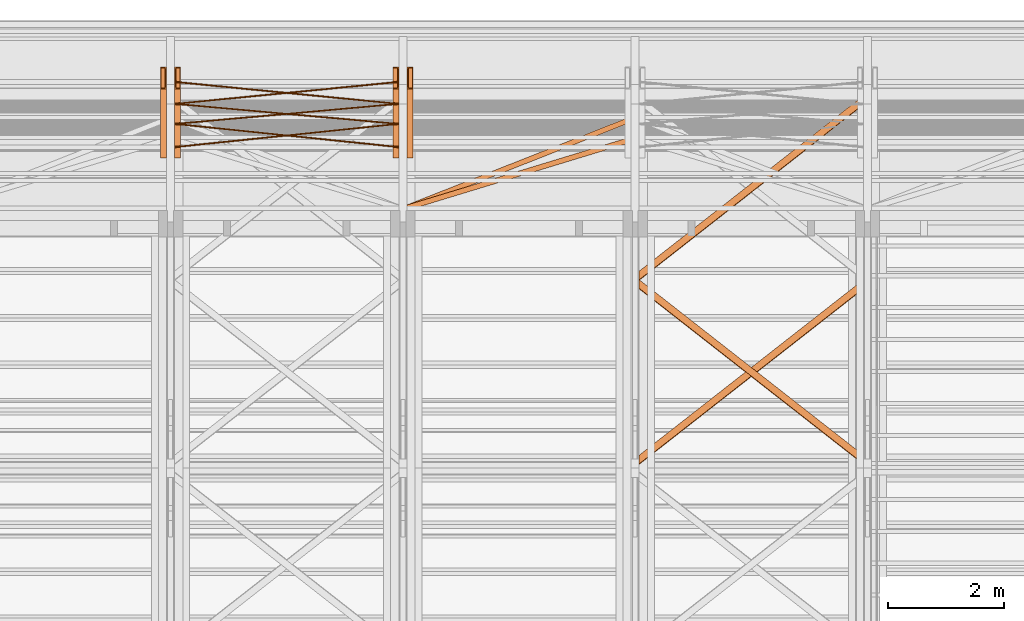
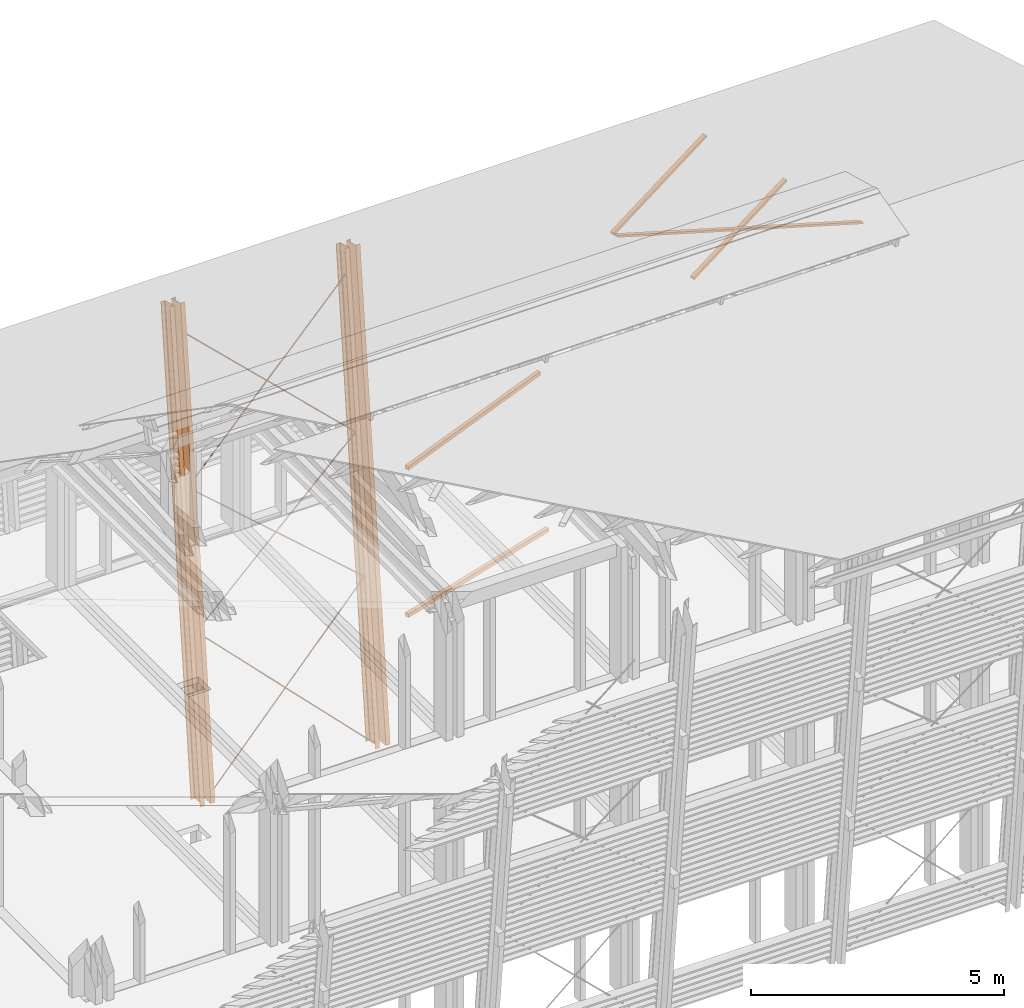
# One storey, part 46 of 48: 15 proxies.
"""IFC2X3 building model written with IfcOpenShell, lengths in metres."""

from ifc_helpers import new_model, si_unit, direction, frame, origin_with_axes, place, context, subcontext, project, spatial, faceted_brep, material, element, save


model = new_model("IFC2X3")

# Units and contexts
model_context = context("Model", 3, precision=1e-06, world=origin_with_axes(), true_north=direction((0.0, 1.0, 0.0)))
body_context = subcontext(model_context, "Body", "Model", "MODEL_VIEW")
ifc_project = project(units=[si_unit("LENGTHUNIT", "METRE"), si_unit("AREAUNIT", "SQUARE_METRE"), si_unit("VOLUMEUNIT", "CUBIC_METRE"), si_unit("PLANEANGLEUNIT", "RADIAN")], contexts=[model_context])

# Site, building, storey
site_placement = place(None, origin_with_axes())
site = spatial("IfcSite", under=ifc_project, at=site_placement, CompositionType="ELEMENT")
building_placement = place(site_placement, origin_with_axes())
building = spatial("IfcBuilding", under=site, at=building_placement, Name="Building 1", CompositionType="ELEMENT")
storey_placement = place(building_placement, origin_with_axes())
storey = spatial("IfcBuildingStorey", under=building, at=storey_placement, Name="Storey 1", CompositionType="ELEMENT", Elevation=0.0)

# Proxies
ifc_material_1 = material(Name="Acier")
proxy_1_placement = place(storey_placement, frame((53.5737441, -182.9349831, 7.369), z_axis=(-0.6859491, 0.0760601, 0.7236634), x_axis=(0.7276496, 0.0717012, 0.6821914)))
element("IfcBuildingElementProxy", 1, at=proxy_1_placement, inside=storey, material=ifc_material_1, Name="CVLP", context=body_context, shape_type="Brep", body=[
    faceted_brep([(5.2662712, 0.0093969, -0.0034202), (0.0, 0.01, 0.0), (5.2662712, 0.01, 0.0), (0.0, 0.0093969, 0.0034202), (5.2662712, 0.0093969, 0.0034202), (0.0, 0.0076604, 0.0064279), (5.2662712, 0.0076604, 0.0064279), (0.0, 0.005, 0.0086603), (5.2662712, 0.005, 0.0086603), (0.0, 0.0017365, 0.0098481), (5.2662712, 0.0017365, 0.0098481), (0.0, -0.0017365, 0.0098481), (5.2662712, -0.0017365, 0.0098481), (0.0, -0.005, 0.0086603), (5.2662712, -0.005, 0.0086603), (0.0, -0.0076604, 0.0064279), (5.2662712, -0.0076604, 0.0064279), (0.0, -0.0093969, 0.0034202), (5.2662712, -0.0093969, 0.0034202), (0.0, -0.01, 0.0), (5.2662712, -0.01, 0.0), (0.0, -0.0093969, -0.0034202), (5.2662712, -0.0093969, -0.0034202), (0.0, -0.0076604, -0.0064279), (5.2662712, -0.0076604, -0.0064279), (0.0, -0.005, -0.0086603), (5.2662712, -0.005, -0.0086603), (0.0, -0.0017365, -0.0098481), (5.2662712, -0.0017365, -0.0098481), (0.0, 0.0017365, -0.0098481), (5.2662712, 0.0017365, -0.0098481), (0.0, 0.005, -0.0086603), (5.2662712, 0.005, -0.0086603), (0.0, 0.0076604, -0.0064279), (5.2662712, 0.0076604, -0.0064279), (0.0, 0.0093969, -0.0034202)], [[[0, 1, 2]], [[2, 1, 3]], [[2, 3, 4]], [[4, 3, 5]], [[4, 5, 6]], [[6, 5, 7]], [[6, 7, 8]], [[8, 7, 9]], [[8, 9, 10]], [[10, 9, 11]], [[10, 11, 12]], [[12, 11, 13]], [[12, 13, 14]], [[14, 13, 15]], [[14, 15, 16]], [[16, 15, 17]], [[16, 17, 18]], [[18, 17, 19]], [[18, 19, 20]], [[20, 19, 21]], [[20, 21, 22]], [[22, 21, 23]], [[22, 23, 24]], [[24, 23, 25]], [[24, 25, 26]], [[26, 25, 27]], [[26, 27, 28]], [[28, 27, 29]], [[28, 29, 30]], [[30, 29, 31]], [[30, 31, 32]], [[32, 31, 33]], [[32, 33, 34]], [[34, 33, 35]], [[34, 35, 0]], [[0, 35, 1]], [[10, 12, 8]], [[8, 12, 14]], [[8, 14, 6]], [[6, 14, 16]], [[6, 16, 4]], [[4, 16, 18]], [[4, 18, 2]], [[2, 18, 20]], [[2, 20, 0]], [[0, 20, 22]], [[0, 22, 34]], [[34, 22, 24]], [[34, 24, 32]], [[32, 24, 26]], [[32, 26, 30]], [[30, 26, 28]], [[29, 27, 31]], [[31, 27, 25]], [[31, 25, 33]], [[33, 25, 23]], [[33, 23, 35]], [[35, 23, 21]], [[35, 21, 1]], [[1, 21, 19]], [[1, 19, 3]], [[3, 19, 17]], [[3, 17, 5]], [[5, 17, 15]], [[5, 15, 7]], [[7, 15, 13]], [[7, 13, 9]], [[9, 13, 11]]]),
])
proxy_2_placement = place(storey_placement, frame((57.4057433, -183.677965, 0.3), z_axis=(0.7050562, 0.0741265, 0.7052666), x_axis=(-0.7091514, 0.0736984, 0.7011938)))
element("IfcBuildingElementProxy", 2, at=proxy_2_placement, inside=storey, material=ifc_material_1, Name="CVLP", context=body_context, shape_type="Brep", body=[
    faceted_brep([(5.4036414, -0.0093969, 0.0034202), (0.0, -0.01, 0.0), (5.4036414, -0.01, 0.0), (0.0, -0.0093969, -0.0034202), (5.4036414, -0.0093969, -0.0034202), (0.0, -0.0076604, -0.0064279), (5.4036414, -0.0076604, -0.0064279), (0.0, -0.005, -0.0086603), (5.4036414, -0.005, -0.0086603), (0.0, -0.0017365, -0.0098481), (5.4036414, -0.0017365, -0.0098481), (0.0, 0.0017365, -0.0098481), (5.4036414, 0.0017365, -0.0098481), (0.0, 0.005, -0.0086603), (5.4036414, 0.005, -0.0086603), (0.0, 0.0076604, -0.0064279), (5.4036414, 0.0076604, -0.0064279), (0.0, 0.0093969, -0.0034202), (5.4036414, 0.0093969, -0.0034202), (0.0, 0.01, 0.0), (5.4036414, 0.01, 0.0), (0.0, 0.0093969, 0.0034202), (5.4036414, 0.0093969, 0.0034202), (0.0, 0.0076604, 0.0064279), (5.4036414, 0.0076604, 0.0064279), (0.0, 0.005, 0.0086603), (5.4036414, 0.005, 0.0086603), (0.0, 0.0017365, 0.0098481), (5.4036414, 0.0017365, 0.0098481), (0.0, -0.0017365, 0.0098481), (5.4036414, -0.0017365, 0.0098481), (0.0, -0.005, 0.0086603), (5.4036414, -0.005, 0.0086603), (0.0, -0.0076604, 0.0064279), (5.4036414, -0.0076604, 0.0064279), (0.0, -0.0093969, 0.0034202)], [[[0, 1, 2]], [[2, 1, 3]], [[2, 3, 4]], [[4, 3, 5]], [[4, 5, 6]], [[6, 5, 7]], [[6, 7, 8]], [[8, 7, 9]], [[8, 9, 10]], [[10, 9, 11]], [[10, 11, 12]], [[12, 11, 13]], [[12, 13, 14]], [[14, 13, 15]], [[14, 15, 16]], [[16, 15, 17]], [[16, 17, 18]], [[18, 17, 19]], [[18, 19, 20]], [[20, 19, 21]], [[20, 21, 22]], [[22, 21, 23]], [[22, 23, 24]], [[24, 23, 25]], [[24, 25, 26]], [[26, 25, 27]], [[26, 27, 28]], [[28, 27, 29]], [[28, 29, 30]], [[30, 29, 31]], [[30, 31, 32]], [[32, 31, 33]], [[32, 33, 34]], [[34, 33, 35]], [[34, 35, 0]], [[0, 35, 1]], [[10, 12, 8]], [[8, 12, 14]], [[8, 14, 6]], [[6, 14, 16]], [[6, 16, 4]], [[4, 16, 18]], [[4, 18, 2]], [[2, 18, 20]], [[2, 20, 0]], [[0, 20, 22]], [[0, 22, 34]], [[34, 22, 24]], [[34, 24, 32]], [[32, 24, 26]], [[32, 26, 30]], [[30, 26, 28]], [[29, 27, 31]], [[31, 27, 25]], [[31, 25, 33]], [[33, 25, 23]], [[33, 23, 35]], [[35, 23, 21]], [[35, 21, 1]], [[1, 21, 19]], [[1, 19, 3]], [[3, 19, 17]], [[3, 17, 5]], [[5, 17, 15]], [[5, 15, 7]], [[7, 15, 13]], [[7, 13, 9]], [[9, 13, 11]]]),
])
proxy_3_placement = place(storey_placement, frame((53.5737433, -183.279725, 4.089), z_axis=(-0.6523288, 0.0792259, 0.753784), x_axis=(0.7579361, 0.0681869, 0.6487553)))
element("IfcBuildingElementProxy", 3, at=proxy_3_placement, inside=storey, material=ifc_material_1, Name="CVLP", context=body_context, shape_type="Brep", body=[
    faceted_brep([(5.0558353, -0.0093969, 0.0034202), (0.0, -0.01, 0.0), (5.0558353, -0.01, 0.0), (0.0, -0.0093969, -0.0034202), (5.0558353, -0.0093969, -0.0034202), (0.0, -0.0076604, -0.0064279), (5.0558353, -0.0076604, -0.0064279), (0.0, -0.005, -0.0086603), (5.0558353, -0.005, -0.0086603), (0.0, -0.0017365, -0.0098481), (5.0558353, -0.0017365, -0.0098481), (0.0, 0.0017365, -0.0098481), (5.0558353, 0.0017365, -0.0098481), (0.0, 0.005, -0.0086603), (5.0558353, 0.005, -0.0086603), (0.0, 0.0076604, -0.0064279), (5.0558353, 0.0076604, -0.0064279), (0.0, 0.0093969, -0.0034202), (5.0558353, 0.0093969, -0.0034202), (0.0, 0.01, 0.0), (5.0558353, 0.01, 0.0), (0.0, 0.0093969, 0.0034202), (5.0558353, 0.0093969, 0.0034202), (0.0, 0.0076604, 0.0064279), (5.0558353, 0.0076604, 0.0064279), (0.0, 0.005, 0.0086603), (5.0558353, 0.005, 0.0086603), (0.0, 0.0017365, 0.0098481), (5.0558353, 0.0017365, 0.0098481), (0.0, -0.0017365, 0.0098481), (5.0558353, -0.0017365, 0.0098481), (0.0, -0.005, 0.0086603), (5.0558353, -0.005, 0.0086603), (0.0, -0.0076604, 0.0064279), (5.0558353, -0.0076604, 0.0064279), (0.0, -0.0093969, 0.0034202)], [[[0, 1, 2]], [[2, 1, 3]], [[2, 3, 4]], [[4, 3, 5]], [[4, 5, 6]], [[6, 5, 7]], [[6, 7, 8]], [[8, 7, 9]], [[8, 9, 10]], [[10, 9, 11]], [[10, 11, 12]], [[12, 11, 13]], [[12, 13, 14]], [[14, 13, 15]], [[14, 15, 16]], [[16, 15, 17]], [[16, 17, 18]], [[18, 17, 19]], [[18, 19, 20]], [[20, 19, 21]], [[20, 21, 22]], [[22, 21, 23]], [[22, 23, 24]], [[24, 23, 25]], [[24, 25, 26]], [[26, 25, 27]], [[26, 27, 28]], [[28, 27, 29]], [[28, 29, 30]], [[30, 29, 31]], [[30, 31, 32]], [[32, 31, 33]], [[32, 33, 34]], [[34, 33, 35]], [[34, 35, 0]], [[0, 35, 1]], [[10, 12, 8]], [[8, 12, 14]], [[8, 14, 6]], [[6, 14, 16]], [[6, 16, 4]], [[4, 16, 18]], [[4, 18, 2]], [[2, 18, 20]], [[2, 20, 0]], [[0, 20, 22]], [[0, 22, 34]], [[34, 22, 24]], [[34, 24, 32]], [[32, 24, 26]], [[32, 26, 30]], [[30, 26, 28]], [[29, 27, 31]], [[31, 27, 25]], [[31, 25, 33]], [[33, 25, 23]], [[33, 23, 35]], [[35, 23, 21]], [[35, 21, 1]], [[1, 21, 19]], [[1, 19, 3]], [[3, 19, 17]], [[3, 17, 5]], [[5, 17, 15]], [[5, 15, 7]], [[7, 15, 13]], [[7, 13, 9]], [[9, 13, 11]]]),
])
proxy_4_placement = place(storey_placement, frame((53.5737441, -183.677965, 0.3), z_axis=(-0.7050562, 0.0741265, 0.7052666), x_axis=(0.7091514, 0.0736984, 0.7011938)))
element("IfcBuildingElementProxy", 4, at=proxy_4_placement, inside=storey, material=ifc_material_1, Name="CVLP", context=body_context, shape_type="Brep", body=[
    faceted_brep([(5.4036414, 0.0093969, -0.0034202), (0.0, 0.01, 0.0), (5.4036414, 0.01, 0.0), (0.0, 0.0093969, 0.0034202), (5.4036414, 0.0093969, 0.0034202), (0.0, 0.0076604, 0.0064279), (5.4036414, 0.0076604, 0.0064279), (0.0, 0.005, 0.0086603), (5.4036414, 0.005, 0.0086603), (0.0, 0.0017365, 0.0098481), (5.4036414, 0.0017365, 0.0098481), (0.0, -0.0017365, 0.0098481), (5.4036414, -0.0017365, 0.0098481), (0.0, -0.005, 0.0086603), (5.4036414, -0.005, 0.0086603), (0.0, -0.0076604, 0.0064279), (5.4036414, -0.0076604, 0.0064279), (0.0, -0.0093969, 0.0034202), (5.4036414, -0.0093969, 0.0034202), (0.0, -0.01, 0.0), (5.4036414, -0.01, 0.0), (0.0, -0.0093969, -0.0034202), (5.4036414, -0.0093969, -0.0034202), (0.0, -0.0076604, -0.0064279), (5.4036414, -0.0076604, -0.0064279), (0.0, -0.005, -0.0086603), (5.4036414, -0.005, -0.0086603), (0.0, -0.0017365, -0.0098481), (5.4036414, -0.0017365, -0.0098481), (0.0, 0.0017365, -0.0098481), (5.4036414, 0.0017365, -0.0098481), (0.0, 0.005, -0.0086603), (5.4036414, 0.005, -0.0086603), (0.0, 0.0076604, -0.0064279), (5.4036414, 0.0076604, -0.0064279), (0.0, 0.0093969, -0.0034202)], [[[0, 1, 2]], [[2, 1, 3]], [[2, 3, 4]], [[4, 3, 5]], [[4, 5, 6]], [[6, 5, 7]], [[6, 7, 8]], [[8, 7, 9]], [[8, 9, 10]], [[10, 9, 11]], [[10, 11, 12]], [[12, 11, 13]], [[12, 13, 14]], [[14, 13, 15]], [[14, 15, 16]], [[16, 15, 17]], [[16, 17, 18]], [[18, 17, 19]], [[18, 19, 20]], [[20, 19, 21]], [[20, 21, 22]], [[22, 21, 23]], [[22, 23, 24]], [[24, 23, 25]], [[24, 25, 26]], [[26, 25, 27]], [[26, 27, 28]], [[28, 27, 29]], [[28, 29, 30]], [[30, 29, 31]], [[30, 31, 32]], [[32, 31, 33]], [[32, 33, 34]], [[34, 33, 35]], [[34, 35, 0]], [[0, 35, 1]], [[10, 12, 8]], [[8, 12, 14]], [[8, 14, 6]], [[6, 14, 16]], [[6, 16, 4]], [[4, 16, 18]], [[4, 18, 2]], [[2, 18, 20]], [[2, 20, 0]], [[0, 20, 22]], [[0, 22, 34]], [[34, 22, 24]], [[34, 24, 32]], [[32, 24, 26]], [[32, 26, 30]], [[30, 26, 28]], [[29, 27, 31]], [[31, 27, 25]], [[31, 25, 33]], [[33, 25, 23]], [[33, 23, 35]], [[35, 23, 21]], [[35, 21, 1]], [[1, 21, 19]], [[1, 19, 3]], [[3, 19, 17]], [[3, 17, 5]], [[5, 17, 15]], [[5, 15, 7]], [[7, 15, 13]], [[7, 13, 9]], [[9, 13, 11]]]),
])
proxy_5_placement = place(storey_placement, frame((57.4057433, -182.9349831, 7.369), z_axis=(0.6859491, 0.0760601, 0.7236634), x_axis=(-0.7276496, 0.0717012, 0.6821914)))
element("IfcBuildingElementProxy", 5, at=proxy_5_placement, inside=storey, material=ifc_material_1, Name="CVLP", context=body_context, shape_type="Brep", body=[
    faceted_brep([(5.2662712, -0.0093969, 0.0034202), (0.0, -0.01, 0.0), (5.2662712, -0.01, 0.0), (0.0, -0.0093969, -0.0034202), (5.2662712, -0.0093969, -0.0034202), (0.0, -0.0076604, -0.0064279), (5.2662712, -0.0076604, -0.0064279), (0.0, -0.005, -0.0086603), (5.2662712, -0.005, -0.0086603), (0.0, -0.0017365, -0.0098481), (5.2662712, -0.0017365, -0.0098481), (0.0, 0.0017365, -0.0098481), (5.2662712, 0.0017365, -0.0098481), (0.0, 0.005, -0.0086603), (5.2662712, 0.005, -0.0086603), (0.0, 0.0076604, -0.0064279), (5.2662712, 0.0076604, -0.0064279), (0.0, 0.0093969, -0.0034202), (5.2662712, 0.0093969, -0.0034202), (0.0, 0.01, 0.0), (5.2662712, 0.01, 0.0), (0.0, 0.0093969, 0.0034202), (5.2662712, 0.0093969, 0.0034202), (0.0, 0.0076604, 0.0064279), (5.2662712, 0.0076604, 0.0064279), (0.0, 0.005, 0.0086603), (5.2662712, 0.005, 0.0086603), (0.0, 0.0017365, 0.0098481), (5.2662712, 0.0017365, 0.0098481), (0.0, -0.0017365, 0.0098481), (5.2662712, -0.0017365, 0.0098481), (0.0, -0.005, 0.0086603), (5.2662712, -0.005, 0.0086603), (0.0, -0.0076604, 0.0064279), (5.2662712, -0.0076604, 0.0064279), (0.0, -0.0093969, 0.0034202)], [[[0, 1, 2]], [[2, 1, 3]], [[2, 3, 4]], [[4, 3, 5]], [[4, 5, 6]], [[6, 5, 7]], [[6, 7, 8]], [[8, 7, 9]], [[8, 9, 10]], [[10, 9, 11]], [[10, 11, 12]], [[12, 11, 13]], [[12, 13, 14]], [[14, 13, 15]], [[14, 15, 16]], [[16, 15, 17]], [[16, 17, 18]], [[18, 17, 19]], [[18, 19, 20]], [[20, 19, 21]], [[20, 21, 22]], [[22, 21, 23]], [[22, 23, 24]], [[24, 23, 25]], [[24, 25, 26]], [[26, 25, 27]], [[26, 27, 28]], [[28, 27, 29]], [[28, 29, 30]], [[30, 29, 31]], [[30, 31, 32]], [[32, 31, 33]], [[32, 33, 34]], [[34, 33, 35]], [[34, 35, 0]], [[0, 35, 1]], [[10, 12, 8]], [[8, 12, 14]], [[8, 14, 6]], [[6, 14, 16]], [[6, 16, 4]], [[4, 16, 18]], [[4, 18, 2]], [[2, 18, 20]], [[2, 20, 0]], [[0, 20, 22]], [[0, 22, 34]], [[34, 22, 24]], [[34, 24, 32]], [[32, 24, 26]], [[32, 26, 30]], [[30, 26, 28]], [[29, 27, 31]], [[31, 27, 25]], [[31, 25, 33]], [[33, 25, 23]], [[33, 23, 35]], [[35, 23, 21]], [[35, 21, 1]], [[1, 21, 19]], [[1, 19, 3]], [[3, 19, 17]], [[3, 17, 5]], [[5, 17, 15]], [[5, 15, 7]], [[7, 15, 13]], [[7, 13, 9]], [[9, 13, 11]]]),
])
proxy_6_placement = place(storey_placement, frame((57.4057441, -183.279725, 4.089), z_axis=(0.6523288, 0.0792259, 0.753784), x_axis=(-0.7579361, 0.0681869, 0.6487553)))
element("IfcBuildingElementProxy", 6, at=proxy_6_placement, inside=storey, material=ifc_material_1, Name="CVLP", context=body_context, shape_type="Brep", body=[
    faceted_brep([(5.0558353, 0.0093969, -0.0034202), (0.0, 0.01, 0.0), (5.0558353, 0.01, 0.0), (0.0, 0.0093969, 0.0034202), (5.0558353, 0.0093969, 0.0034202), (0.0, 0.0076604, 0.0064279), (5.0558353, 0.0076604, 0.0064279), (0.0, 0.005, 0.0086603), (5.0558353, 0.005, 0.0086603), (0.0, 0.0017365, 0.0098481), (5.0558353, 0.0017365, 0.0098481), (0.0, -0.0017365, 0.0098481), (5.0558353, -0.0017365, 0.0098481), (0.0, -0.005, 0.0086603), (5.0558353, -0.005, 0.0086603), (0.0, -0.0076604, 0.0064279), (5.0558353, -0.0076604, 0.0064279), (0.0, -0.0093969, 0.0034202), (5.0558353, -0.0093969, 0.0034202), (0.0, -0.01, 0.0), (5.0558353, -0.01, 0.0), (0.0, -0.0093969, -0.0034202), (5.0558353, -0.0093969, -0.0034202), (0.0, -0.0076604, -0.0064279), (5.0558353, -0.0076604, -0.0064279), (0.0, -0.005, -0.0086603), (5.0558353, -0.005, -0.0086603), (0.0, -0.0017365, -0.0098481), (5.0558353, -0.0017365, -0.0098481), (0.0, 0.0017365, -0.0098481), (5.0558353, 0.0017365, -0.0098481), (0.0, 0.005, -0.0086603), (5.0558353, 0.005, -0.0086603), (0.0, 0.0076604, -0.0064279), (5.0558353, 0.0076604, -0.0064279), (0.0, 0.0093969, -0.0034202)], [[[0, 1, 2]], [[2, 1, 3]], [[2, 3, 4]], [[4, 3, 5]], [[4, 5, 6]], [[6, 5, 7]], [[6, 7, 8]], [[8, 7, 9]], [[8, 9, 10]], [[10, 9, 11]], [[10, 11, 12]], [[12, 11, 13]], [[12, 13, 14]], [[14, 13, 15]], [[14, 15, 16]], [[16, 15, 17]], [[16, 17, 18]], [[18, 17, 19]], [[18, 19, 20]], [[20, 19, 21]], [[20, 21, 22]], [[22, 21, 23]], [[22, 23, 24]], [[24, 23, 25]], [[24, 25, 26]], [[26, 25, 27]], [[26, 27, 28]], [[28, 27, 29]], [[28, 29, 30]], [[30, 29, 31]], [[30, 31, 32]], [[32, 31, 33]], [[32, 33, 34]], [[34, 33, 35]], [[34, 35, 0]], [[0, 35, 1]], [[10, 12, 8]], [[8, 12, 14]], [[8, 14, 6]], [[6, 14, 16]], [[6, 16, 4]], [[4, 16, 18]], [[4, 18, 2]], [[2, 18, 20]], [[2, 20, 0]], [[0, 20, 22]], [[0, 22, 34]], [[34, 22, 24]], [[34, 24, 32]], [[32, 24, 26]], [[32, 26, 30]], [[30, 26, 28]], [[29, 27, 31]], [[31, 27, 25]], [[31, 25, 33]], [[33, 25, 23]], [[33, 23, 35]], [[35, 23, 21]], [[35, 21, 1]], [[1, 21, 19]], [[1, 19, 3]], [[3, 19, 17]], [[3, 17, 5]], [[5, 17, 15]], [[5, 15, 7]], [[7, 15, 13]], [[7, 13, 9]], [[9, 13, 11]]]),
])
proxy_7_placement = place(storey_placement, frame((53.3687437, -182.4859924, 11.6408612), z_axis=(0.0, -0.9945219, 0.1045285), x_axis=(0.0, -0.1045285, -0.9945219)))
element("IfcBuildingElementProxy", 7, at=proxy_7_placement, inside=storey, material=ifc_material_1, Name="Poteau", context=body_context, shape_type="Brep", body=[
    faceted_brep([(0.0563372, 0.0346296, -0.165699), (0.0556479, 0.0367655, -0.161347), (0.0601861, 0.051, -0.19), (0.0548889, 0.0375, -0.156555), (0.0, 0.051, 0.19), (0.0052972, 0.0375, 0.156555), (0.0045382, 0.0367655, 0.161347), (0.0592057, -0.051, -0.18381), (0.0579402, -0.0433995, -0.17582), (0.0601861, -0.051, -0.19), (0.0574199, 0.022299, -0.172535), (0.0572658, 0.0270483, -0.1715622), (0.0568935, 0.0312883, -0.1692116), (0.0588262, -0.0506328, -0.181414), (0.0584816, -0.0495648, -0.179238), (0.0582034, -0.0478941, -0.1774817), (0.0580172, -0.0457742, -0.1763064), (0.0038489, 0.0346296, 0.165699), (0.0032926, 0.0312883, 0.1692116), (0.0029203, 0.0270483, 0.1715622), (0.0027662, 0.022299, 0.172535), (0.0, -0.051, 0.19), (0.0022459, -0.0433995, 0.17582), (0.0009804, -0.051, 0.18381), (0.0021689, -0.0457742, 0.1763064), (0.0019827, -0.0478941, 0.1774817), (0.0017045, -0.0495648, 0.179238), (0.0013599, -0.0506328, 0.181414), (11.420672, 0.0375, -0.156555), (11.420672, 0.0367655, -0.161347), (11.420672, 0.0346296, -0.165699), (11.420672, 0.0312883, -0.1692116), (11.420672, 0.0270483, -0.1715622), (11.420672, 0.022299, -0.172535), (11.420672, -0.0433995, -0.17582), (11.420672, -0.0457742, -0.1763064), (11.420672, -0.0478941, -0.1774817), (11.420672, -0.0495648, -0.179238), (11.420672, -0.0506328, -0.181414), (11.420672, -0.051, -0.18381), (11.420672, -0.051, -0.19), (11.420672, 0.051, -0.19), (11.420672, 0.051, 0.19), (11.420672, -0.051, 0.19), (11.420672, -0.051, 0.18381), (11.420672, -0.0506328, 0.181414), (11.420672, -0.0495648, 0.179238), (11.420672, -0.0478941, 0.1774817), (11.420672, -0.0457742, 0.1763064), (11.420672, -0.0433995, 0.17582), (11.420672, 0.022299, 0.172535), (11.420672, 0.0270483, 0.1715622), (11.420672, 0.0312883, 0.1692116), (11.420672, 0.0346296, 0.165699), (11.420672, 0.0367655, 0.161347), (11.420672, 0.0375, 0.156555)], [[[0, 1, 2]], [[2, 1, 3]], [[2, 3, 4]], [[4, 3, 5]], [[4, 5, 6]], [[7, 8, 9]], [[9, 8, 10]], [[9, 10, 2]], [[2, 10, 11]], [[2, 11, 12]], [[7, 13, 8]], [[8, 13, 14]], [[8, 14, 15]], [[15, 16, 8]], [[12, 0, 2]], [[6, 17, 4]], [[4, 17, 18]], [[4, 18, 19]], [[19, 20, 4]], [[4, 20, 21]], [[20, 22, 21]], [[21, 22, 23]], [[24, 25, 22]], [[22, 25, 26]], [[22, 26, 27]], [[27, 23, 22]], [[3, 1, 28]], [[28, 1, 29]], [[1, 0, 29]], [[29, 0, 30]], [[0, 12, 30]], [[30, 12, 31]], [[12, 11, 31]], [[31, 11, 32]], [[11, 10, 32]], [[32, 10, 33]], [[10, 8, 33]], [[33, 8, 34]], [[8, 16, 34]], [[34, 16, 35]], [[16, 15, 35]], [[35, 15, 36]], [[15, 14, 36]], [[36, 14, 37]], [[14, 13, 37]], [[37, 13, 38]], [[13, 7, 38]], [[38, 7, 39]], [[7, 9, 39]], [[39, 9, 40]], [[9, 2, 40]], [[40, 2, 41]], [[4, 42, 2]], [[2, 42, 41]], [[43, 42, 21]], [[21, 42, 4]], [[21, 23, 43]], [[43, 23, 44]], [[23, 27, 44]], [[44, 27, 45]], [[27, 26, 45]], [[45, 26, 46]], [[26, 25, 46]], [[46, 25, 47]], [[25, 24, 47]], [[47, 24, 48]], [[24, 22, 48]], [[48, 22, 49]], [[22, 20, 49]], [[49, 20, 50]], [[20, 19, 50]], [[50, 19, 51]], [[19, 18, 51]], [[51, 18, 52]], [[18, 17, 52]], [[52, 17, 53]], [[17, 6, 53]], [[53, 6, 54]], [[6, 5, 54]], [[54, 5, 55]], [[5, 3, 55]], [[55, 3, 28]], [[53, 54, 42]], [[42, 54, 55]], [[42, 55, 41]], [[41, 55, 28]], [[41, 28, 29]], [[44, 49, 43]], [[43, 49, 50]], [[43, 50, 42]], [[42, 50, 51]], [[42, 51, 52]], [[44, 45, 49]], [[49, 45, 46]], [[49, 46, 47]], [[47, 48, 49]], [[52, 53, 42]], [[29, 30, 41]], [[41, 30, 31]], [[41, 31, 32]], [[32, 33, 41]], [[41, 33, 40]], [[33, 34, 40]], [[40, 34, 39]], [[34, 35, 39]], [[39, 35, 36]], [[39, 36, 37]], [[37, 38, 39]]]),
])
proxy_8_placement = place(storey_placement, frame((57.6107437, -182.4859924, 11.6408612), z_axis=(0.0, -0.9945219, 0.1045285), x_axis=(0.0, -0.1045285, -0.9945219)))
element("IfcBuildingElementProxy", 8, at=proxy_8_placement, inside=storey, material=ifc_material_1, Name="Poteau", context=body_context, shape_type="Brep", body=[
    faceted_brep([(0.0588262, 0.0506328, -0.181414), (0.0592057, 0.051, -0.18381), (0.0579402, 0.0433995, -0.17582), (0.0601861, 0.051, -0.19), (0.0574199, -0.022299, -0.172535), (0.0601861, -0.051, -0.19), (0.0572658, -0.0270483, -0.1715622), (0.0568935, -0.0312883, -0.1692116), (0.0045382, -0.0367655, 0.161347), (0.0052972, -0.0375, 0.156555), (0.0, -0.051, 0.19), (0.0548889, -0.0375, -0.156555), (0.0556479, -0.0367655, -0.161347), (0.0563372, -0.0346296, -0.165699), (0.0009804, 0.051, 0.18381), (0.0022459, 0.0433995, 0.17582), (0.0, 0.051, 0.19), (0.0027662, -0.022299, 0.172535), (0.0029203, -0.0270483, 0.1715622), (0.0032926, -0.0312883, 0.1692116), (0.0013599, 0.0506328, 0.181414), (0.0017045, 0.0495648, 0.179238), (0.0019827, 0.0478941, 0.1774817), (0.0021689, 0.0457742, 0.1763064), (0.0038489, -0.0346296, 0.165699), (0.0580172, 0.0457742, -0.1763064), (0.0582034, 0.0478941, -0.1774817), (0.0584816, 0.0495648, -0.179238), (11.420672, 0.0433995, 0.17582), (11.420672, 0.0457742, 0.1763064), (11.420672, 0.0478941, 0.1774817), (11.420672, 0.0495648, 0.179238), (11.420672, 0.0506328, 0.181414), (11.420672, 0.051, 0.18381), (11.420672, 0.051, 0.19), (11.420672, -0.051, 0.19), (11.420672, -0.051, -0.19), (11.420672, 0.051, -0.19), (11.420672, 0.051, -0.18381), (11.420672, 0.0506328, -0.181414), (11.420672, 0.0495648, -0.179238), (11.420672, 0.0478941, -0.1774817), (11.420672, 0.0457742, -0.1763064), (11.420672, 0.0433995, -0.17582), (11.420672, -0.022299, -0.172535), (11.420672, -0.0270483, -0.1715622), (11.420672, -0.0312883, -0.1692116), (11.420672, -0.0346296, -0.165699), (11.420672, -0.0367655, -0.161347), (11.420672, -0.0375, -0.156555), (11.420672, -0.0375, 0.156555), (11.420672, -0.0367655, 0.161347), (11.420672, -0.0346296, 0.165699), (11.420672, -0.0312883, 0.1692116), (11.420672, -0.0270483, 0.1715622), (11.420672, -0.022299, 0.172535)], [[[0, 1, 2]], [[2, 1, 3]], [[2, 3, 4]], [[4, 3, 5]], [[4, 5, 6]], [[6, 5, 7]], [[8, 9, 10]], [[10, 9, 11]], [[10, 11, 5]], [[5, 11, 12]], [[5, 12, 13]], [[14, 15, 16]], [[16, 15, 17]], [[16, 17, 10]], [[10, 17, 18]], [[10, 18, 19]], [[14, 20, 15]], [[15, 20, 21]], [[15, 21, 22]], [[22, 23, 15]], [[19, 24, 10]], [[10, 24, 8]], [[13, 7, 5]], [[25, 26, 2]], [[2, 26, 27]], [[2, 27, 0]], [[15, 23, 28]], [[28, 23, 29]], [[23, 22, 29]], [[29, 22, 30]], [[22, 21, 30]], [[30, 21, 31]], [[21, 20, 31]], [[31, 20, 32]], [[20, 14, 32]], [[32, 14, 33]], [[16, 34, 14]], [[14, 34, 33]], [[10, 5, 35]], [[35, 5, 36]], [[5, 3, 36]], [[36, 3, 37]], [[1, 38, 3]], [[3, 38, 37]], [[1, 0, 38]], [[38, 0, 39]], [[0, 27, 39]], [[39, 27, 40]], [[27, 26, 40]], [[40, 26, 41]], [[26, 25, 41]], [[41, 25, 42]], [[25, 2, 42]], [[42, 2, 43]], [[4, 44, 2]], [[2, 44, 43]], [[4, 6, 44]], [[44, 6, 45]], [[6, 7, 45]], [[45, 7, 46]], [[7, 13, 46]], [[46, 13, 47]], [[13, 12, 47]], [[47, 12, 48]], [[12, 11, 48]], [[48, 11, 49]], [[9, 50, 11]], [[11, 50, 49]], [[9, 8, 50]], [[50, 8, 51]], [[8, 24, 51]], [[51, 24, 52]], [[24, 19, 52]], [[52, 19, 53]], [[19, 18, 53]], [[53, 18, 54]], [[18, 17, 54]], [[54, 17, 55]], [[15, 28, 17]], [[17, 28, 55]], [[35, 34, 10]], [[10, 34, 16]], [[48, 49, 36]], [[36, 49, 50]], [[36, 50, 35]], [[35, 50, 51]], [[35, 51, 52]], [[41, 42, 38]], [[38, 42, 43]], [[38, 43, 37]], [[37, 43, 44]], [[37, 44, 36]], [[36, 44, 45]], [[36, 45, 46]], [[39, 40, 38]], [[38, 40, 41]], [[46, 47, 36]], [[36, 47, 48]], [[52, 53, 35]], [[35, 53, 54]], [[35, 54, 55]], [[35, 55, 34]], [[34, 55, 28]], [[34, 28, 33]], [[33, 28, 32]], [[29, 30, 28]], [[28, 30, 31]], [[28, 31, 32]]]),
])
proxy_9_placement = place(storey_placement, frame((53.6107437, -182.4859924, 11.6408612), z_axis=(0.0, -0.9945219, 0.1045285), x_axis=(0.0, -0.1045285, -0.9945219)))
element("IfcBuildingElementProxy", 9, at=proxy_9_placement, inside=storey, material=ifc_material_1, Name="Poteau", context=body_context, shape_type="Brep", body=[
    faceted_brep([(0.0588262, 0.0506328, -0.181414), (0.0592057, 0.051, -0.18381), (0.0579402, 0.0433995, -0.17582), (0.0601861, 0.051, -0.19), (0.0574199, -0.022299, -0.172535), (0.0601861, -0.051, -0.19), (0.0572658, -0.0270483, -0.1715622), (0.0568935, -0.0312883, -0.1692116), (0.0045382, -0.0367655, 0.161347), (0.0052972, -0.0375, 0.156555), (0.0, -0.051, 0.19), (0.0548889, -0.0375, -0.156555), (0.0556479, -0.0367655, -0.161347), (0.0563372, -0.0346296, -0.165699), (0.0009804, 0.051, 0.18381), (0.0022459, 0.0433995, 0.17582), (0.0, 0.051, 0.19), (0.0027662, -0.022299, 0.172535), (0.0029203, -0.0270483, 0.1715622), (0.0032926, -0.0312883, 0.1692116), (0.0013599, 0.0506328, 0.181414), (0.0017045, 0.0495648, 0.179238), (0.0019827, 0.0478941, 0.1774817), (0.0021689, 0.0457742, 0.1763064), (0.0038489, -0.0346296, 0.165699), (0.0580172, 0.0457742, -0.1763064), (0.0582034, 0.0478941, -0.1774817), (0.0584816, 0.0495648, -0.179238), (11.420672, 0.0433995, 0.17582), (11.420672, 0.0457742, 0.1763064), (11.420672, 0.0478941, 0.1774817), (11.420672, 0.0495648, 0.179238), (11.420672, 0.0506328, 0.181414), (11.420672, 0.051, 0.18381), (11.420672, 0.051, 0.19), (11.420672, -0.051, 0.19), (11.420672, -0.051, -0.19), (11.420672, 0.051, -0.19), (11.420672, 0.051, -0.18381), (11.420672, 0.0506328, -0.181414), (11.420672, 0.0495648, -0.179238), (11.420672, 0.0478941, -0.1774817), (11.420672, 0.0457742, -0.1763064), (11.420672, 0.0433995, -0.17582), (11.420672, -0.022299, -0.172535), (11.420672, -0.0270483, -0.1715622), (11.420672, -0.0312883, -0.1692116), (11.420672, -0.0346296, -0.165699), (11.420672, -0.0367655, -0.161347), (11.420672, -0.0375, -0.156555), (11.420672, -0.0375, 0.156555), (11.420672, -0.0367655, 0.161347), (11.420672, -0.0346296, 0.165699), (11.420672, -0.0312883, 0.1692116), (11.420672, -0.0270483, 0.1715622), (11.420672, -0.022299, 0.172535)], [[[0, 1, 2]], [[2, 1, 3]], [[2, 3, 4]], [[4, 3, 5]], [[4, 5, 6]], [[6, 5, 7]], [[8, 9, 10]], [[10, 9, 11]], [[10, 11, 5]], [[5, 11, 12]], [[5, 12, 13]], [[14, 15, 16]], [[16, 15, 17]], [[16, 17, 10]], [[10, 17, 18]], [[10, 18, 19]], [[14, 20, 15]], [[15, 20, 21]], [[15, 21, 22]], [[22, 23, 15]], [[19, 24, 10]], [[10, 24, 8]], [[13, 7, 5]], [[25, 26, 2]], [[2, 26, 27]], [[2, 27, 0]], [[15, 23, 28]], [[28, 23, 29]], [[23, 22, 29]], [[29, 22, 30]], [[22, 21, 30]], [[30, 21, 31]], [[21, 20, 31]], [[31, 20, 32]], [[20, 14, 32]], [[32, 14, 33]], [[16, 34, 14]], [[14, 34, 33]], [[10, 5, 35]], [[35, 5, 36]], [[5, 3, 36]], [[36, 3, 37]], [[1, 38, 3]], [[3, 38, 37]], [[1, 0, 38]], [[38, 0, 39]], [[0, 27, 39]], [[39, 27, 40]], [[27, 26, 40]], [[40, 26, 41]], [[26, 25, 41]], [[41, 25, 42]], [[25, 2, 42]], [[42, 2, 43]], [[4, 44, 2]], [[2, 44, 43]], [[4, 6, 44]], [[44, 6, 45]], [[6, 7, 45]], [[45, 7, 46]], [[7, 13, 46]], [[46, 13, 47]], [[13, 12, 47]], [[47, 12, 48]], [[12, 11, 48]], [[48, 11, 49]], [[9, 50, 11]], [[11, 50, 49]], [[9, 8, 50]], [[50, 8, 51]], [[8, 24, 51]], [[51, 24, 52]], [[24, 19, 52]], [[52, 19, 53]], [[19, 18, 53]], [[53, 18, 54]], [[18, 17, 54]], [[54, 17, 55]], [[15, 28, 17]], [[17, 28, 55]], [[35, 34, 10]], [[10, 34, 16]], [[48, 49, 36]], [[36, 49, 50]], [[36, 50, 35]], [[35, 50, 51]], [[35, 51, 52]], [[41, 42, 38]], [[38, 42, 43]], [[38, 43, 37]], [[37, 43, 44]], [[37, 44, 36]], [[36, 44, 45]], [[36, 45, 46]], [[39, 40, 38]], [[38, 40, 41]], [[46, 47, 36]], [[36, 47, 48]], [[52, 53, 35]], [[35, 53, 54]], [[35, 54, 55]], [[35, 55, 34]], [[34, 55, 28]], [[34, 28, 33]], [[33, 28, 32]], [[29, 30, 28]], [[28, 30, 31]], [[28, 31, 32]]]),
])
proxy_10_placement = place(storey_placement, frame((57.3687437, -182.4859924, 11.6408612), z_axis=(0.0, -0.9945219, 0.1045285), x_axis=(0.0, -0.1045285, -0.9945219)))
element("IfcBuildingElementProxy", 10, at=proxy_10_placement, inside=storey, material=ifc_material_1, Name="Poteau", context=body_context, shape_type="Brep", body=[
    faceted_brep([(0.0563372, 0.0346296, -0.165699), (0.0556479, 0.0367655, -0.161347), (0.0601861, 0.051, -0.19), (0.0548889, 0.0375, -0.156555), (0.0, 0.051, 0.19), (0.0052972, 0.0375, 0.156555), (0.0045382, 0.0367655, 0.161347), (0.0592057, -0.051, -0.18381), (0.0579402, -0.0433995, -0.17582), (0.0601861, -0.051, -0.19), (0.0574199, 0.022299, -0.172535), (0.0572658, 0.0270483, -0.1715622), (0.0568935, 0.0312883, -0.1692116), (0.0588262, -0.0506328, -0.181414), (0.0584816, -0.0495648, -0.179238), (0.0582034, -0.0478941, -0.1774817), (0.0580172, -0.0457742, -0.1763064), (0.0038489, 0.0346296, 0.165699), (0.0032926, 0.0312883, 0.1692116), (0.0029203, 0.0270483, 0.1715622), (0.0027662, 0.022299, 0.172535), (0.0, -0.051, 0.19), (0.0022459, -0.0433995, 0.17582), (0.0009804, -0.051, 0.18381), (0.0021689, -0.0457742, 0.1763064), (0.0019827, -0.0478941, 0.1774817), (0.0017045, -0.0495648, 0.179238), (0.0013599, -0.0506328, 0.181414), (11.420672, 0.0375, -0.156555), (11.420672, 0.0367655, -0.161347), (11.420672, 0.0346296, -0.165699), (11.420672, 0.0312883, -0.1692116), (11.420672, 0.0270483, -0.1715622), (11.420672, 0.022299, -0.172535), (11.420672, -0.0433995, -0.17582), (11.420672, -0.0457742, -0.1763064), (11.420672, -0.0478941, -0.1774817), (11.420672, -0.0495648, -0.179238), (11.420672, -0.0506328, -0.181414), (11.420672, -0.051, -0.18381), (11.420672, -0.051, -0.19), (11.420672, 0.051, -0.19), (11.420672, 0.051, 0.19), (11.420672, -0.051, 0.19), (11.420672, -0.051, 0.18381), (11.420672, -0.0506328, 0.181414), (11.420672, -0.0495648, 0.179238), (11.420672, -0.0478941, 0.1774817), (11.420672, -0.0457742, 0.1763064), (11.420672, -0.0433995, 0.17582), (11.420672, 0.022299, 0.172535), (11.420672, 0.0270483, 0.1715622), (11.420672, 0.0312883, 0.1692116), (11.420672, 0.0346296, 0.165699), (11.420672, 0.0367655, 0.161347), (11.420672, 0.0375, 0.156555)], [[[0, 1, 2]], [[2, 1, 3]], [[2, 3, 4]], [[4, 3, 5]], [[4, 5, 6]], [[7, 8, 9]], [[9, 8, 10]], [[9, 10, 2]], [[2, 10, 11]], [[2, 11, 12]], [[7, 13, 8]], [[8, 13, 14]], [[8, 14, 15]], [[15, 16, 8]], [[12, 0, 2]], [[6, 17, 4]], [[4, 17, 18]], [[4, 18, 19]], [[19, 20, 4]], [[4, 20, 21]], [[20, 22, 21]], [[21, 22, 23]], [[24, 25, 22]], [[22, 25, 26]], [[22, 26, 27]], [[27, 23, 22]], [[3, 1, 28]], [[28, 1, 29]], [[1, 0, 29]], [[29, 0, 30]], [[0, 12, 30]], [[30, 12, 31]], [[12, 11, 31]], [[31, 11, 32]], [[11, 10, 32]], [[32, 10, 33]], [[10, 8, 33]], [[33, 8, 34]], [[8, 16, 34]], [[34, 16, 35]], [[16, 15, 35]], [[35, 15, 36]], [[15, 14, 36]], [[36, 14, 37]], [[14, 13, 37]], [[37, 13, 38]], [[13, 7, 38]], [[38, 7, 39]], [[7, 9, 39]], [[39, 9, 40]], [[9, 2, 40]], [[40, 2, 41]], [[4, 42, 2]], [[2, 42, 41]], [[43, 42, 21]], [[21, 42, 4]], [[21, 23, 43]], [[43, 23, 44]], [[23, 27, 44]], [[44, 27, 45]], [[27, 26, 45]], [[45, 26, 46]], [[26, 25, 46]], [[46, 25, 47]], [[25, 24, 47]], [[47, 24, 48]], [[24, 22, 48]], [[48, 22, 49]], [[22, 20, 49]], [[49, 20, 50]], [[20, 19, 50]], [[50, 19, 51]], [[19, 18, 51]], [[51, 18, 52]], [[18, 17, 52]], [[52, 17, 53]], [[17, 6, 53]], [[53, 6, 54]], [[6, 5, 54]], [[54, 5, 55]], [[5, 3, 55]], [[55, 3, 28]], [[53, 54, 42]], [[42, 54, 55]], [[42, 55, 41]], [[41, 55, 28]], [[41, 28, 29]], [[44, 49, 43]], [[43, 49, 50]], [[43, 50, 42]], [[42, 50, 51]], [[42, 51, 52]], [[44, 45, 49]], [[49, 45, 46]], [[49, 46, 47]], [[47, 48, 49]], [[52, 53, 42]], [[29, 30, 41]], [[41, 30, 31]], [[41, 31, 32]], [[32, 33, 41]], [[41, 33, 40]], [[33, 34, 40]], [[40, 34, 39]], [[34, 35, 39]], [[39, 35, 36]], [[39, 36, 37]], [[37, 38, 39]]]),
])
ifc_material_2 = material(Name="GL28h")
proxy_11_placement = place(storey_placement, frame((57.5377471, -184.7306656, 7.544), z_axis=(0.3666108, -0.9303744, 0.0), x_axis=(0.9303744, 0.3666108, 0.0)))
element("IfcBuildingElementProxy", 11, at=proxy_11_placement, inside=storey, material=ifc_material_2, Name="CVLP", context=body_context, shape_type="Brep", body=[
    faceted_brep([(4.196153, -0.045, -0.045), (4.196153, -0.045, 0.045), (0.0, -0.045, 0.045), (0.0, -0.045, -0.045), (4.196153, 0.045, 0.045), (0.0, 0.045, 0.045), (4.196153, 0.045, -0.045), (0.0, 0.045, -0.045)], [[[0, 1, 2, 3]], [[1, 4, 5, 2]], [[4, 6, 7, 5]], [[6, 0, 3, 7]], [[1, 0, 6, 4]], [[7, 3, 2, 5]]]),
])
for number, where, z_axis, x_axis in (
    (12, (65.4575102, -182.8443274, 11.682812), (0.6294478, -0.7505657, 0.2011135), (-0.7770428, -0.6079999, 0.1629131)),
    (13, (65.4575106, -186.0137676, 12.5320609), (0.6294478, -0.7505657, 0.2011135), (-0.7770428, -0.6079999, 0.1629131)),
):
    element("IfcBuildingElementProxy", number, at=place(storey_placement, frame(where, z_axis=z_axis, x_axis=x_axis)), inside=storey, material=ifc_material_2, Name="CVT", context=body_context, shape_type="Brep", body=[
        faceted_brep([(4.9675515, 0.0225, -0.06), (5.0647581, 0.0225, 0.06), (5.0647581, -0.0225, 0.06), (4.9675515, -0.0225, -0.06), (0.0, 0.0225, -0.06), (0.0972067, 0.0225, 0.06), (0.0, -0.0225, -0.06), (0.0972067, -0.0225, 0.06)], [[[0, 1, 2, 3]], [[1, 0, 4, 5]], [[6, 7, 5, 4]], [[5, 7, 2, 1]], [[3, 2, 7, 6]], [[0, 3, 6, 4]]]),
    ])
proxy_12_placement = place(storey_placement, frame((61.5219764, -186.0137676, 12.5320609), z_axis=(-0.6294478, -0.7505657, 0.2011135), x_axis=(0.7770428, -0.6079999, 0.1629131)))
element("IfcBuildingElementProxy", 14, at=proxy_12_placement, inside=storey, material=ifc_material_2, Name="CVT", context=body_context, shape_type="Brep", body=[
    faceted_brep([(5.0647581, -0.0225, 0.06), (4.9675515, -0.0225, -0.06), (4.9675515, 0.0225, -0.06), (5.0647581, 0.0225, 0.06), (0.0972067, -0.0225, 0.06), (0.0, -0.0225, -0.06), (0.0972067, 0.0225, 0.06), (0.0, 0.0225, -0.06)], [[[0, 1, 2, 3]], [[1, 0, 4, 5]], [[6, 7, 5, 4]], [[6, 4, 0, 3]], [[3, 2, 7, 6]], [[2, 1, 5, 7]]]),
])
proxy_13_placement = place(storey_placement, frame((57.5422857, -184.7290801, 3.984), z_axis=(0.2909669, -0.9567331, 0.0), x_axis=(0.9567331, 0.2909669, 0.0)))
element("IfcBuildingElementProxy", 15, at=proxy_13_placement, inside=storey, material=ifc_material_2, Name="CVLP", context=body_context, shape_type="Brep", body=[
    faceted_brep([(4.071058, -0.045, -0.045), (4.071058, -0.045, 0.045), (0.0, -0.045, 0.045), (0.0, -0.045, -0.045), (4.071058, 0.045, 0.045), (0.0, 0.045, 0.045), (4.071058, 0.045, -0.045), (0.0, 0.045, -0.045)], [[[0, 1, 2, 3]], [[1, 4, 5, 2]], [[4, 6, 7, 5]], [[6, 0, 3, 7]], [[1, 0, 6, 4]], [[7, 3, 2, 5]]]),
])

save(model, "model.ifc")
